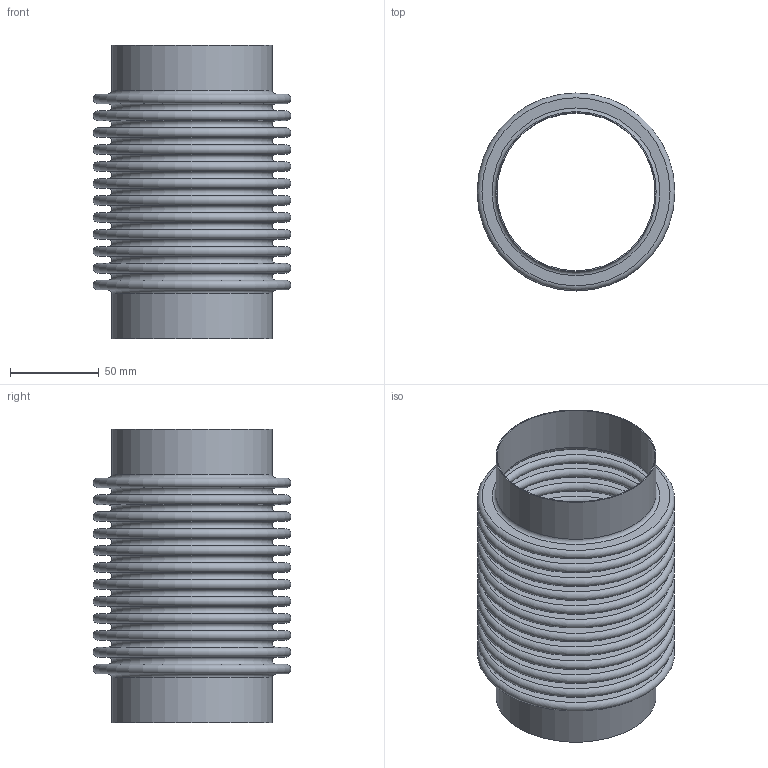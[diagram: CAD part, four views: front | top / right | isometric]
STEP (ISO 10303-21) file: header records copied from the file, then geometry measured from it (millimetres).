
FILE_DESCRIPTION(/* description */ ('STOCK BELLOWS: U.S-3-12-150L, 3.500 I.D., 4.375 O.D., 1 PLY, 24 GA (0.024 THICK), 12 CONS., 0.375 PITCH, 1.000 TANGENT. '),/* implementation_level */ '2;1');
FILE_NAME(/* name */ 'STOCK BELLOW - US-3-12-150L.stp',/* time_stamp */ '2026-07-21T12:55:15-05:00',/* author */ ('KennethB'),/* organization */ (''),/* preprocessor_version */ 'ST-DEVELOPER v20.1',/* originating_system */ 'Autodesk Inventor 2026',/* authorisation */ '');
FILE_SCHEMA (('AUTOMOTIVE_DESIGN { 1 0 10303 214 3 1 1 }'));
Length unit declared in the file: inch
Products named in the file (1): STOCK BELLOW - US-3-12-150L
Bounding box: 111.12 x 111.12 x 165.1 mm (x, y, z)
Volume: 69484.6 mm3; surface area: 228996.4 mm2
Topology: 3 solids, 3 shells, 108 faces, 162 edges, 109 vertices
Faces by surface type: plane 54, torus 50, cylinder 4
Full cylindrical faces by diameter (mm): 88.9 x2, 90.119 x2
Entity records: 2550 total; most frequent: DIRECTION 538, CARTESIAN_POINT 380, ORIENTED_EDGE 324, AXIS2_PLACEMENT_3D 267, EDGE_LOOP 162, EDGE_CURVE 162, CIRCLE 158, FACE_OUTER_BOUND 108
